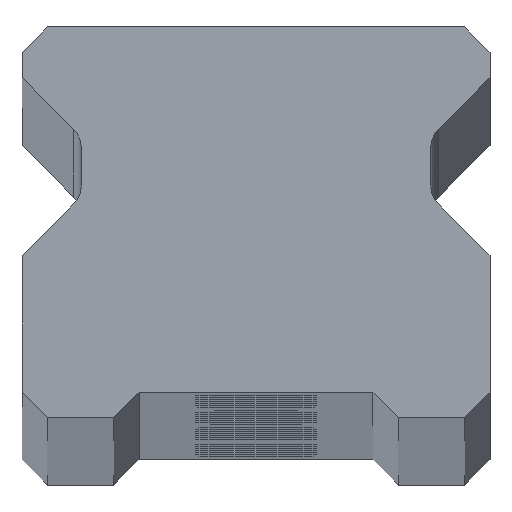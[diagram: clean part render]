
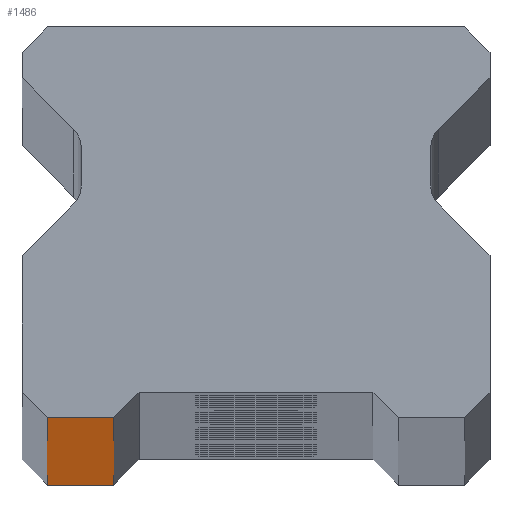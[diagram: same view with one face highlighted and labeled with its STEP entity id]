
A CAD part, top view. The second image highlights one B-rep face of the part: STEP entity #1486.
In plain terms, the highlighted planar face has unit normal (0, -1, 0).
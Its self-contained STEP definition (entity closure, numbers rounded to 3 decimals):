
#31 = LINE ( 'NONE', #566, #2084 ) ;
#205 = FACE_OUTER_BOUND ( 'NONE', #6585, .T. ) ;
#267 = VECTOR ( 'NONE', #6070, 1000. ) ;
#317 = DIRECTION ( 'NONE',  ( -1., 0., 0. ) ) ;
#368 = CARTESIAN_POINT ( 'NONE',  ( -7., 0., -950. ) ) ;
#566 = CARTESIAN_POINT ( 'NONE',  ( 11.5, 0., 950. ) ) ;
#627 = VERTEX_POINT ( 'NONE', #6650 ) ;
#1037 = VERTEX_POINT ( 'NONE', #2351 ) ;
#1077 = DIRECTION ( 'NONE',  ( 1., 0., 0. ) ) ;
#1121 = VERTEX_POINT ( 'NONE', #1483 ) ;
#1127 = ORIENTED_EDGE ( 'NONE', *, *, #6296, .T. ) ;
#1483 = CARTESIAN_POINT ( 'NONE',  ( -10.25, 0., 950. ) ) ;
#1486 = ADVANCED_FACE ( 'NONE', ( #205 ), #4507, .F. ) ;
#1517 = ORIENTED_EDGE ( 'NONE', *, *, #4234, .T. ) ;
#1667 = ORIENTED_EDGE ( 'NONE', *, *, #2206, .F. ) ;
#1839 = LINE ( 'NONE', #2475, #267 ) ;
#2068 = VERTEX_POINT ( 'NONE', #368 ) ;
#2084 = VECTOR ( 'NONE', #1077, 1000. ) ;
#2206 = EDGE_CURVE ( 'NONE', #1121, #1037, #31, .T. ) ;
#2336 = ORIENTED_EDGE ( 'NONE', *, *, #2595, .T. ) ;
#2351 = CARTESIAN_POINT ( 'NONE',  ( -7., 0., 950. ) ) ;
#2475 = CARTESIAN_POINT ( 'NONE',  ( -10.25, 0., 950. ) ) ;
#2595 = EDGE_CURVE ( 'NONE', #1121, #627, #1839, .T. ) ;
#2633 = VECTOR ( 'NONE', #3933, 1000. ) ;
#3681 = LINE ( 'NONE', #4501, #2633 ) ;
#3933 = DIRECTION ( 'NONE',  ( 1., 0., 0. ) ) ;
#3993 = CARTESIAN_POINT ( 'NONE',  ( -7., 0., -950. ) ) ;
#3999 = AXIS2_PLACEMENT_3D ( 'NONE', #6615, #4490, #317 ) ;
#4234 = EDGE_CURVE ( 'NONE', #627, #2068, #3681, .T. ) ;
#4490 = DIRECTION ( 'NONE',  ( 0., 1., 0. ) ) ;
#4501 = CARTESIAN_POINT ( 'NONE',  ( 11.5, 0., -950. ) ) ;
#4507 = PLANE ( 'NONE',  #3999 ) ;
#4893 = LINE ( 'NONE', #3993, #6521 ) ;
#6070 = DIRECTION ( 'NONE',  ( 0., 0., -1. ) ) ;
#6296 = EDGE_CURVE ( 'NONE', #2068, #1037, #4893, .T. ) ;
#6521 = VECTOR ( 'NONE', #6757, 1000. ) ;
#6585 = EDGE_LOOP ( 'NONE', ( #1517, #1127, #1667, #2336 ) ) ;
#6615 = CARTESIAN_POINT ( 'NONE',  ( 11.5, 0., 950. ) ) ;
#6650 = CARTESIAN_POINT ( 'NONE',  ( -10.25, 0., -950. ) ) ;
#6757 = DIRECTION ( 'NONE',  ( 0., 0., 1. ) ) ;
